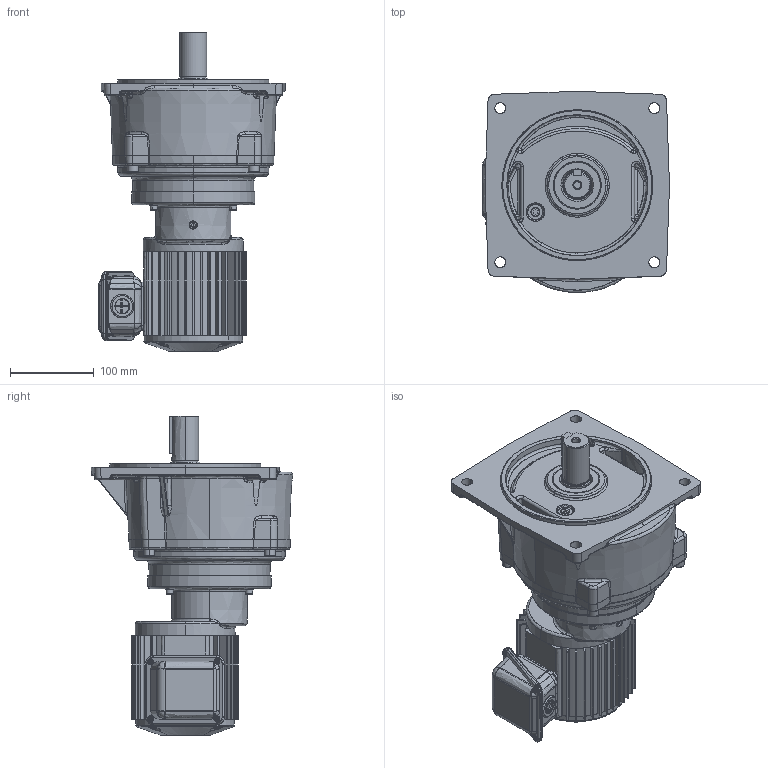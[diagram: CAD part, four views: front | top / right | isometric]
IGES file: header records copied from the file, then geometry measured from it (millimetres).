
Start section: SolidWorks IGES file using analytic representation for surfaces
Global section: file name: \\100.100.100.8\1_共有作業フォルダ\1-5_３Ｄデータ\solidworks\personal-folder\H.Nagayama\SGP1外形\P1(3D)\igs\TMF2-01-(600~1200).IGS; native system: SolidWorks 2018; preprocessor: SolidWorks 2018; author: sigma-giken; date: 200512.101231; units: millimetre
Bounding box: 223.03 x 240.19 x 381.5 mm (x, y, z)
Surface area: 530146.4 mm2 (no closed solid volume)
Topology: 0 solids, 0 shells, 1553 faces, 19526 edges, 19493 vertices
Faces by surface type: bspline 855, revolution 698
